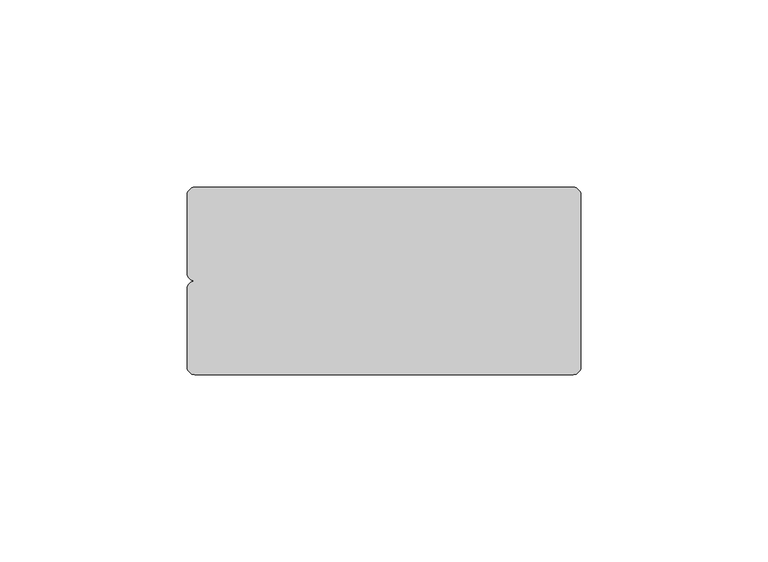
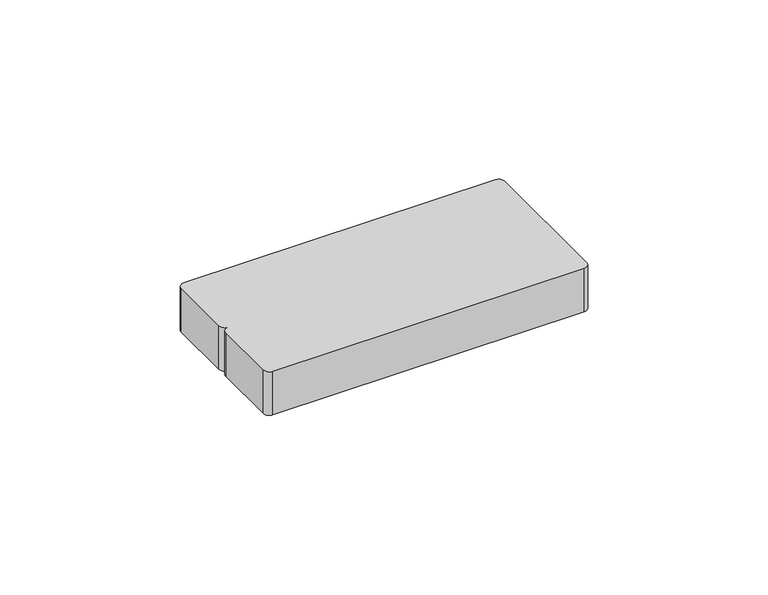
"""IFC4 building model written with IfcOpenShell, lengths in millimetres: duct fitting geometry, Заглушка торцевая - для кабель-каналов DLP - белый : 50х105мм."""

from ifc_helpers import new_model, si_unit, point, frame_2d, origin, origin_with_axes, place, context, project, spatial, polyline, circle_curve, trimmed, segment, composite_curve, outline, extrude, source, transform, mapped, element, save


def duct_fitting_a2bda3cc(model_context):
    return source(origin(), model_context, "Body", "SweptSolid", [
        extrude(outline(composite_curve([segment(trimmed(circle_curve(frame_2d((-50.5, -2.0)), 2.0), [point((-52.5, -2.0))], [point((-50.5, 0.0))], False, "CARTESIAN"), True, "CONTINUOUS"), segment(trimmed(circle_curve(frame_2d((-50.5, 2.0)), 2.0), [point((-50.5, 0.0))], [point((-52.5, 2.0))], False, "CARTESIAN"), True, "CONTINUOUS"), segment(polyline([(-52.5, 2.0), (-52.5, 23.0)]), True, "CONTINUOUS"), segment(trimmed(circle_curve(frame_2d((-50.5, 23.0)), 2.0), [point((-52.5, 23.0))], [point((-50.5, 25.0))], False, "CARTESIAN"), True, "CONTINUOUS"), segment(polyline([(-50.5, 25.0), (50.5, 25.0)]), True, "CONTINUOUS"), segment(trimmed(circle_curve(frame_2d((50.5, 23.0)), 2.0), [point((50.5, 25.0))], [point((52.5, 23.0))], False, "CARTESIAN"), True, "CONTINUOUS"), segment(polyline([(52.5, 23.0), (52.5, -23.0)]), True, "CONTINUOUS"), segment(trimmed(circle_curve(frame_2d((50.5, -23.0)), 2.0), [point((52.5, -23.0))], [point((50.5, -25.0))], False, "CARTESIAN"), True, "CONTINUOUS"), segment(polyline([(50.5, -25.0), (-50.5, -25.0)]), True, "CONTINUOUS"), segment(trimmed(circle_curve(frame_2d((-50.5, -23.0)), 2.0), [point((-50.5, -25.0))], [point((-52.5, -23.0))], False, "CARTESIAN"), True, "CONTINUOUS"), segment(polyline([(-52.5, -23.0), (-52.5, -2.0)]), True, "CONTINUOUS")], self_intersect=False)), origin_with_axes(), (0.0, 0.0, 1.0), 15.0),
    ])


if __name__ == "__main__":
    model = new_model("IFC4")
    model_context = context("Model", 3, world=origin())
    ifc_project = project(units=[si_unit("LENGTHUNIT", "METRE", prefix="MILLI")], contexts=[model_context])
    site = spatial("IfcSite", under=ifc_project)
    building = spatial("IfcBuilding", under=site)
    placement = place(None, origin())
    duct_fitting_shape = duct_fitting_a2bda3cc(model_context)
    element("IfcDuctFitting", 1, ObjectType="Заглушка торцевая - для кабель-каналов DLP - белый : 50х105мм", at=placement, inside=building, context=model_context, shape_type="MappedRepresentation", body=[
        mapped(duct_fitting_shape, transform((0.0, 0.0, 0.0), x_axis=(1.0, 0.0, 0.0), y_axis=(0.0, 1.0, 0.0), z_axis=(0.0, 0.0, 1.0))),
    ])
    save(model, "model.ifc")
